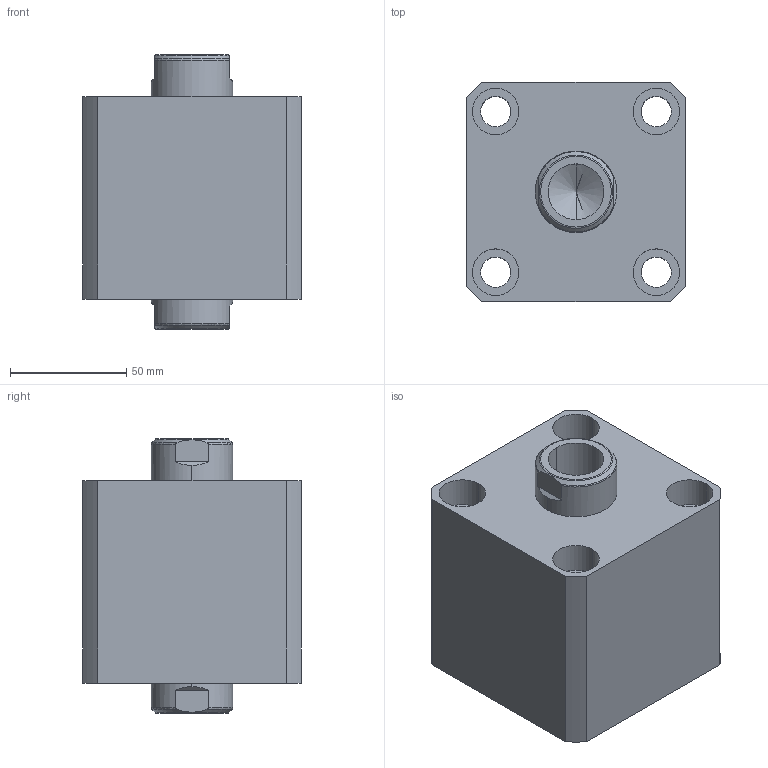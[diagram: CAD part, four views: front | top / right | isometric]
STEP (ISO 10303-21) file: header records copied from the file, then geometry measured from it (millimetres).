
FILE_DESCRIPTION (( 'STEP AP214' ), '1' );
FILE_NAME ('chtb-sw63x5n_asm.STEP', '2018-05-12T01:04:20', ( 'Windows' ), ( 'Microsoft' ), 'SwSTEP 2.0', 'SolidWorks 2015', '' );
FILE_SCHEMA (( 'AUTOMOTIVE_DESIGN' ));
Length unit declared in the file: millimetre
Products named in the file (4): CHTB-SW63X5NBT; CHTB-SW63X5NHSG; CHTB-63QG; chtb-sw63x5n_asm
Assembly tree (3 placements, depth 2):
  chtb-sw63x5n_asm
    CHTB-63QG
    CHTB-SW63X5NHSG
    CHTB-SW63X5NBT
Bounding box: 94 x 94 x 118 mm (x, y, z)
Volume: 689586.7 mm3; surface area: 123774.5 mm2
Topology: 3 solids, 3 shells, 184 faces, 515 edges, 349 vertices
Faces by surface type: cylinder 106, plane 38, cone 16, bspline 12, torus 12
Entity records: 18385 total; most frequent: CARTESIAN_POINT 13775, ORIENTED_EDGE 1014, DIRECTION 814, EDGE_CURVE 507, VERTEX_POINT 349, AXIS2_PLACEMENT_3D 331, EDGE_LOOP 220, FACE_OUTER_BOUND 184
